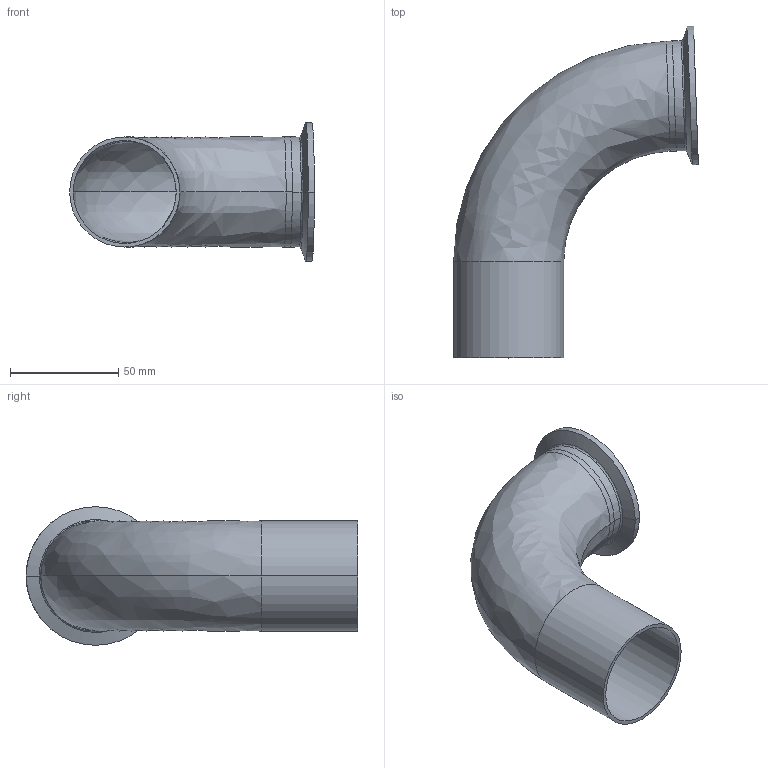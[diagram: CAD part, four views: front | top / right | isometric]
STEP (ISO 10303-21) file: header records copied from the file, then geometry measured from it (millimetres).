
FILE_DESCRIPTION (( 'STEP AP214' ), '1' );
FILE_NAME ('TE2C886L2.0-...STEP', '2016-05-22T07:57:47', ( 'eran' ), ( '' ), 'SwSTEP 2.0', 'SolidWorks 2016', '' );
FILE_SCHEMA (( 'AUTOMOTIVE_DESIGN' ));
Length unit declared in the file: millimetre
Products named in the file (1): TE2C886L2.0-..
Bounding box: 112.88 x 153.09 x 63.91 mm (x, y, z)
Volume: 48928.5 mm3; surface area: 57103.7 mm2
Topology: 2 solids, 2 shells, 39 faces, 92 edges, 58 vertices
Faces by surface type: bspline 14, cylinder 14, cone 6, plane 5
Entity records: 1801 total; most frequent: CARTESIAN_POINT 858, DIRECTION 204, ORIENTED_EDGE 184, AXIS2_PLACEMENT_3D 92, EDGE_CURVE 92, CIRCLE 66, VERTEX_POINT 58, EDGE_LOOP 44
